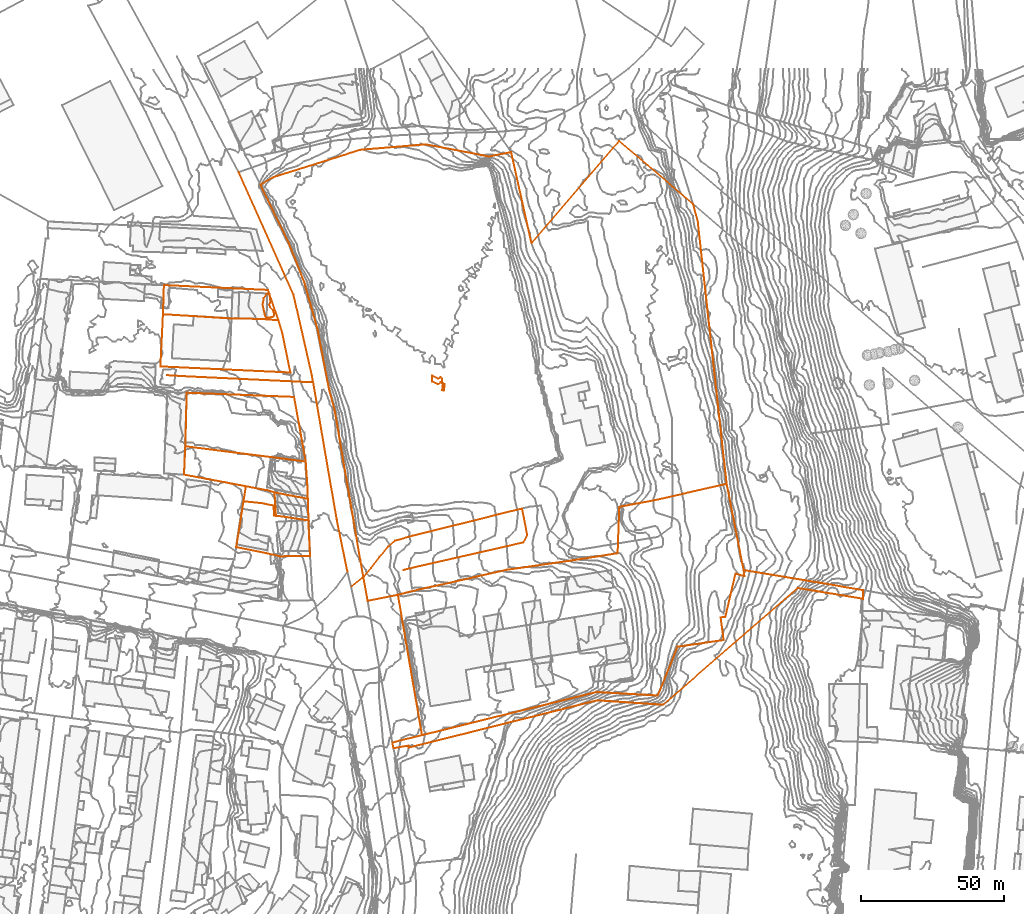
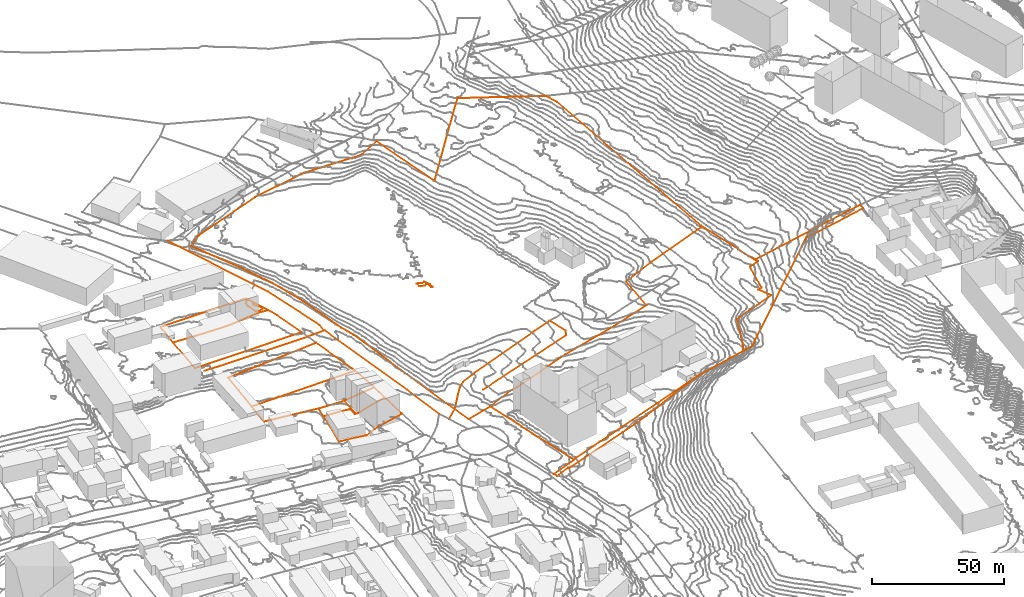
# Not in any storey, part 335 of 419: 17 proxies.
"""IFC2X3 model written with IfcOpenShell, lengths in metres."""

import ifcopenshell
import ifcopenshell.guid

model = None  # the IFC model being written
_history = None  # IfcOwnerHistory: only IFC2X3 demands one
_inside = {}  # id of a spatial element -> (the spatial element, [elements in it])
_under = {}  # id of a project, library or spatial element -> (it, [spatial elements below it])
_declared = {}  # id of a project -> (the project, [libraries it declares])
_typed = {}  # id of a type object -> (the type object, [elements of that type])
_made_of = {}  # id of a material, layer set ... -> (it, [elements and type objects made of it])


def new_model(schema):
    """Start an empty IFC model of exactly this schema.

    Asked for "IFC4X3", IfcOpenShell would pick the latest addendum, in which some entities
    have other attributes; the version numbers below select the first issue.
    IFC2X3 requires an IfcOwnerHistory on every rooted entity: one is made here for all.
    """
    global model, _history
    if schema == "IFC4X3":
        model = ifcopenshell.file(schema_version=(4, 3, 0, 0))
    else:
        model = ifcopenshell.file(schema=schema)
    _inside.clear()
    _under.clear()
    _declared.clear()
    _typed.clear()
    _made_of.clear()
    _history = None
    if model.schema == "IFC2X3":
        org = make("IfcOrganization", Name="unknown")
        user = make(
            "IfcPersonAndOrganization",
            ThePerson=make("IfcPerson", FamilyName="unknown"),
            TheOrganization=org,
        )
        app = make(
            "IfcApplication",
            ApplicationDeveloper=org,
            Version="unknown",
            ApplicationFullName="unknown",
            ApplicationIdentifier="unknown",
        )
        _history = make(
            "IfcOwnerHistory",
            OwningUser=user,
            OwningApplication=app,
            ChangeAction="ADDED",
            CreationDate=0,
        )
    return model


def make(cls, **values):
    """One entity of the class cls with the attributes given. An attribute that is None is left unset."""
    return model.create_entity(
        cls, **{name: value for name, value in values.items() if value is not None}
    )


def entity(cls, *values):
    """Any entity or typed value of the class cls, its attributes in the order of the schema. None: left unset."""
    e = model.create_entity(cls)
    for i, value in enumerate(values):
        if value is not None:
            e[i] = value
    return e


def rooted(cls, **values):
    """An entity with a GlobalId (a new one), such as an element, a storey or a relation."""
    return make(cls, GlobalId=ifcopenshell.guid.new(), OwnerHistory=_history, **values)


def si_unit(unit_type, name, prefix=None):
    """IfcSIUnit, for example si_unit("LENGTHUNIT", "METRE", prefix="MILLI")."""
    return make("IfcSIUnit", UnitType=unit_type, Prefix=prefix, Name=name)


def assignment(units):
    """IfcUnitAssignment: the units of a project."""
    return None if units is None else make("IfcUnitAssignment", Units=units)


def point(xyz):
    """IfcCartesianPoint."""
    return None if xyz is None else make("IfcCartesianPoint", Coordinates=xyz)


def direction(xyz):
    """IfcDirection."""
    return None if xyz is None else make("IfcDirection", DirectionRatios=xyz)


def frame(location, z_axis=None, x_axis=None):
    """IfcAxis2Placement3D, a coordinate frame: its origin and axes. An axis left out is left unset."""
    return make(
        "IfcAxis2Placement3D",
        Location=point(location),
        Axis=direction(z_axis),
        RefDirection=direction(x_axis),
    )


def origin_with_axes():
    """The frame at (0, 0, 0) with the z axis (0, 0, 1) and the x axis (1, 0, 0) written out."""
    return frame((0.0, 0.0, 0.0), z_axis=(0.0, 0.0, 1.0), x_axis=(1.0, 0.0, 0.0))


def place(relative_to, where):
    """IfcLocalPlacement: puts the frame where relative to a parent placement (None: the world)."""
    return make(
        "IfcLocalPlacement", PlacementRelTo=relative_to, RelativePlacement=where
    )


def context(
    kind, dimensions, precision=None, world=None, true_north=None, identifier=None
):
    """IfcGeometricRepresentationContext, for example the 3D "Model" context."""
    return make(
        "IfcGeometricRepresentationContext",
        ContextIdentifier=identifier,
        ContextType=kind,
        CoordinateSpaceDimension=dimensions,
        Precision=precision,
        WorldCoordinateSystem=world,
        TrueNorth=true_north,
    )


def subcontext(parent, identifier, kind, view, scale=None):
    """IfcGeometricRepresentationSubContext, for example "Body" below "Model"."""
    return make(
        "IfcGeometricRepresentationSubContext",
        ContextIdentifier=identifier,
        ContextType=kind,
        ParentContext=parent,
        TargetScale=scale,
        TargetView=view,
    )


def project(units=None, contexts=None):
    """IfcProject with its units and contexts."""
    return rooted(
        "IfcProject",
        Name="project",
        RepresentationContexts=contexts,
        UnitsInContext=assignment(units),
    )


def shape(context_of_items, identifier, shape_type, items):
    """IfcShapeRepresentation: the items that make up one representation, for example the "Body"."""
    return make(
        "IfcShapeRepresentation",
        ContextOfItems=context_of_items,
        RepresentationIdentifier=identifier,
        RepresentationType=shape_type,
        Items=items,
    )


def made_of(thing, what):
    """Note that an element or type object is made of a material, layer set ...; save() writes the relation."""
    if what is not None:
        _made_of.setdefault(what.id(), (what, []))[1].append(thing)
    return thing


def element(
    cls,
    number,
    at=None,
    inside=None,
    cuts=None,
    type_object=None,
    material=None,
    context=None,
    identifier="Body",
    shape_type=None,
    held_by="IfcProductDefinitionShape",
    body=None,
    shapes=None,
    **own,
):
    """One element of the class cls, such as IfcWall. Its Tag is "e" and its number.

    at: its placement. inside: the storey or other place that contains it. cuts: it is an
    opening in that element (IfcRelVoidsElement). A single representation is given by context,
    identifier, shape_type and body (its items); several are given by shapes. held_by: the class
    of the entity that holds the representations. save() writes the other relations.
    """
    e = rooted(cls, Tag="e%d" % number, ObjectPlacement=at, **own)
    if body is not None:
        shapes = [shape(context, identifier, shape_type, body)]
    if shapes is not None:
        e.Representation = make(held_by, Representations=shapes)
    if inside is not None:
        _inside.setdefault(inside.id(), (inside, []))[1].append(e)
    if cuts is not None:
        rooted(
            "IfcRelVoidsElement", RelatingBuildingElement=cuts, RelatedOpeningElement=e
        )
    if type_object is not None:
        _typed.setdefault(type_object.id(), (type_object, []))[1].append(e)
    return made_of(e, material)


def aggregate(whole, parts):
    """IfcRelAggregates: a whole, such as a stair, and the parts it consists of."""
    return rooted("IfcRelAggregates", RelatingObject=whole, RelatedObjects=parts)


def save(model, path):
    """Write the relations noted so far, then the file.

    IfcRelAggregates (storeys below a building ...), IfcRelContainedInSpatialStructure (elements
    in a storey), IfcRelDefinesByType, IfcRelAssociatesMaterial and IfcRelDeclares: one each for
    every whole, place, type object, material and project.
    """
    for whole, parts in _under.values():
        aggregate(whole, parts)
    for where, things in _inside.values():
        rooted(
            "IfcRelContainedInSpatialStructure",
            RelatedElements=things,
            RelatingStructure=where,
        )
    for kind, things in _typed.values():
        rooted("IfcRelDefinesByType", RelatedObjects=things, RelatingType=kind)
    for what, things in _made_of.values():
        rooted("IfcRelAssociatesMaterial", RelatedObjects=things, RelatingMaterial=what)
    for by, libraries in _declared.values():
        rooted("IfcRelDeclares", RelatingContext=by, RelatedDefinitions=libraries)
    model.write(path)


model = new_model("IFC2X3")

# Units and contexts
model_context = context("Model", 3, precision=1e-05, world=origin_with_axes())
body_context = subcontext(model_context, "Body", "Model", "MODEL_VIEW")
ifc_project = project(units=[si_unit("AREAUNIT", "SQUARE_METRE"), si_unit("LENGTHUNIT", "METRE")], contexts=[model_context])

# Proxies
proxy_1_placement = place(None, frame((621.3920204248, 922.5976909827, 51.2), z_axis=(0.0, 0.0, 1.0), x_axis=(1.0, 0.0, 0.0)))
element("IfcBuildingElementProxy", 1, at=proxy_1_placement, Name="Route 98", ObjectType="NOTDEFINED", context=body_context, shape_type="GeometricCurveSet", body=[
    entity("IfcGeometricCurveSet", [entity("IfcPolyline", [entity("IfcCartesianPoint", [0.0, 0.0, 0.0]), entity("IfcCartesianPoint", [8.2999999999, -48.2999999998, -1.2]), entity("IfcCartesianPoint", [12.0, -66.2999999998, -2.8])])]),
])
proxy_2_placement = place(None, frame((652.9920204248, 856.8976909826, 52.4), z_axis=(0.0, 0.0, 1.0), x_axis=(1.0, 0.0, 0.0)))
element("IfcBuildingElementProxy", 2, at=proxy_2_placement, Name="Route 197", ObjectType="NOTDEFINED", context=body_context, shape_type="GeometricCurveSet", body=[
    entity("IfcGeometricCurveSet", [entity("IfcPolyline", [entity("IfcCartesianPoint", [41.6, 21.5, 4.4]), entity("IfcCartesianPoint", [43.4, 12.2000000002, 4.9]), entity("IfcCartesianPoint", [42.0, 9.5999999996, 4.8]), entity("IfcCartesianPoint", [0.0, 0.0, 0.0])])]),
])
proxy_3_placement = place(None, frame((634.6920204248, 850.9976909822, 48.8), z_axis=(0.0, 0.0, 1.0), x_axis=(1.0, 0.0, 0.0)))
element("IfcBuildingElementProxy", 3, at=proxy_3_placement, Name="Route 291", ObjectType="NOTDEFINED", context=body_context, shape_type="GeometricCurveSet", body=[
    entity("IfcGeometricCurveSet", [entity("IfcPolyline", [entity("IfcCartesianPoint", [0.0, 0.0, 0.0]), entity("IfcCartesianPoint", [4.6, 3.8000000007, 0.6]), entity("IfcCartesianPoint", [6.9, 6.5, 1.1]), entity("IfcCartesianPoint", [10.0, 10.5, 1.5]), entity("IfcCartesianPoint", [12.9, 14.0, 1.8]), entity("IfcCartesianPoint", [15.4, 16.1000000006, 2.1]), entity("IfcCartesianPoint", [21.7000000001, 17.9000000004, 3.1]), entity("IfcCartesianPoint", [51.9, 25.4000000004, 7.1]), entity("IfcCartesianPoint", [59.9, 27.4000000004, 8.0])])]),
])
proxy_4_placement = place(None, frame((569.7920204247, 925.0976909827, 48.9), z_axis=(0.0, 0.0, 1.0), x_axis=(1.0, 0.0, 0.0)))
element("IfcBuildingElementProxy", 4, at=proxy_4_placement, Name="Route 292", ObjectType="NOTDEFINED", context=body_context, shape_type="GeometricCurveSet", body=[
    entity("IfcGeometricCurveSet", [entity("IfcPolyline", [entity("IfcCartesianPoint", [0.0, 0.0, 0.0]), entity("IfcCartesianPoint", [6.8, -0.4000000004, 0.1]), entity("IfcCartesianPoint", [44.3, -2.2000000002, 1.7]), entity("IfcCartesianPoint", [51.6000000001, -2.5, 2.3])])]),
])
proxy_5_placement = place(None, frame((595.2920204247, 996.1976909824, 57.1), z_axis=(0.0, 0.0, 1.0), x_axis=(1.0, 0.0, 0.0)))
element("IfcBuildingElementProxy", 5, at=proxy_5_placement, Name="Route 305", ObjectType="NOTDEFINED", context=body_context, shape_type="GeometricCurveSet", body=[
    entity("IfcGeometricCurveSet", [entity("IfcPolyline", [entity("IfcCartesianPoint", [26.1000000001, -73.5999999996, -5.9]), entity("IfcCartesianPoint", [25.6000000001, -70.8999999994, -4.9]), entity("IfcCartesianPoint", [19.2000000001, -42.7999999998, -4.3]), entity("IfcCartesianPoint", [0.0, 0.0, 0.0])])]),
])
proxy_6_placement = place(None, frame((602.9020204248, 991.8476909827, 54.6844293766), z_axis=(0.0, 0.0, 1.0), x_axis=(1.0, 0.0, 0.0)))
element("IfcBuildingElementProxy", 6, at=proxy_6_placement, Name="Cadastre 57", ObjectType="NOTDEFINED", context=body_context, shape_type="GeometricCurveSet", body=[
    entity("IfcGeometricCurveSet", [entity("IfcPolyline", [entity("IfcCartesianPoint", [151.61, -6.8499999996, 20.8134902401]), entity("IfcCartesianPoint", [153.2, -12.6399999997, 20.8725838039]), entity("IfcCartesianPoint", [163.3199999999, -104.6299999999, 15.7432181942]), entity("IfcCartesianPoint", [162.84, -104.9400000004, 15.3105404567]), entity("IfcCartesianPoint", [138.2, -110.54, 11.4767116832]), entity("IfcCartesianPoint", [125.74, -112.8899999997, 8.0886507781]), entity("IfcCartesianPoint", [125.1499999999, -129.1399999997, 7.1838067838]), entity("IfcCartesianPoint", [109.5399999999, -131.5999999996, 4.4705969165]), entity("IfcCartesianPoint", [86.4099999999, -134.9199999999, 1.4815148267]), entity("IfcCartesianPoint", [61.8999999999, -140.4699999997, -1.861779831]), entity("IfcCartesianPoint", [58.52, -141.1600000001, -1.9626136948]), entity("IfcCartesianPoint", [52.6499999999, -142.5499999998, -3.1380284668]), entity("IfcCartesianPoint", [48.1899999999, -143.6799999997, -4.0844292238]), entity("IfcCartesianPoint", [37.61, -145.8200000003, -4.9312379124]), entity("IfcCartesianPoint", [35.01, -131.5300000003, -4.6724931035]), entity("IfcCartesianPoint", [26.0, -78.8100000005, -2.587188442]), entity("IfcCartesianPoint", [24.1499999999, -72.0800000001, -2.4625246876]), entity("IfcCartesianPoint", [20.02, -50.5899999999, -1.8096525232]), entity("IfcCartesianPoint", [15.4199999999, -34.2999999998, -1.5019299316]), entity("IfcCartesianPoint", [9.9199999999, -20.2700000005, -1.0976125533]), entity("IfcCartesianPoint", [0.0, 0.0, 0.0]), entity("IfcCartesianPoint", [4.5699999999, 2.6399999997, 1.6650426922]), entity("IfcCartesianPoint", [35.0, 12.1799999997, 3.1365062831]), entity("IfcCartesianPoint", [57.8999999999, 14.0899999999, 5.3210762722]), entity("IfcCartesianPoint", [80.01, 9.8399999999, 8.2505036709]), entity("IfcCartesianPoint", [87.85, 11.3499999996, 11.0140529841]), entity("IfcCartesianPoint", [94.97, -20.4000000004, 9.4117311]), entity("IfcCartesianPoint", [123.47, 12.7599999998, 15.2393832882]), entity("IfcCartesianPoint", [125.6699999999, 15.2000000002, 15.4633213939]), entity("IfcCartesianPoint", [151.61, -6.8499999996, 20.8134902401])])]),
])
proxy_7_placement = place(None, frame((567.8720204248, 928.1376909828, 49.0698641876), z_axis=(0.0, 0.0, 1.0), x_axis=(1.0, 0.0, 0.0)))
element("IfcBuildingElementProxy", 7, at=proxy_7_placement, Name="Cadastre 63", ObjectType="NOTDEFINED", context=body_context, shape_type="GeometricCurveSet", body=[
    entity("IfcGeometricCurveSet", [entity("IfcPolyline", [entity("IfcCartesianPoint", [0.91, 18.2800000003, 0.4981066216]), entity("IfcCartesianPoint", [10.62, 17.7000000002, 0.5580570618]), entity("IfcCartesianPoint", [23.87, 16.8399999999, 1.0119367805]), entity("IfcCartesianPoint", [26.3199999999, 16.8700000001, 1.1867762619]), entity("IfcCartesianPoint", [36.17, 16.5700000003, 2.6115161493]), entity("IfcCartesianPoint", [41.42, 16.1499999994, 2.6038662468]), entity("IfcCartesianPoint", [42.6799999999, 11.7999999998, 2.4557364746]), entity("IfcCartesianPoint", [45.5599999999, -2.1299999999, 1.9491390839]), entity("IfcCartesianPoint", [0.0, 0.0, 0.0]), entity("IfcCartesianPoint", [0.91, 18.2800000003, 0.4981066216])])]),
])
proxy_8_placement = place(None, frame((568.7820204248, 946.417690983, 49.5679708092), z_axis=(0.0, 0.0, 1.0), x_axis=(1.0, 0.0, 0.0)))
element("IfcBuildingElementProxy", 8, at=proxy_8_placement, Name="Cadastre 64", ObjectType="NOTDEFINED", context=body_context, shape_type="GeometricCurveSet", body=[
    entity("IfcGeometricCurveSet", [entity("IfcPolyline", [entity("IfcCartesianPoint", [0.33, 10.21, 0.9060562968]), entity("IfcCartesianPoint", [36.8099999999, 8.5199999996, 2.3680296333]), entity("IfcCartesianPoint", [40.51, -2.1300000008, 2.1057596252]), entity("IfcCartesianPoint", [35.26, -1.71, 2.1134095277]), entity("IfcCartesianPoint", [25.4099999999, -1.4100000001, 0.6886696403]), entity("IfcCartesianPoint", [22.96, -1.4400000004, 0.513830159]), entity("IfcCartesianPoint", [9.71, -0.5800000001, 0.0599504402]), entity("IfcCartesianPoint", [0.0, 0.0, 0.0]), entity("IfcCartesianPoint", [0.21, 6.2999999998, 0.5703499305]), entity("IfcCartesianPoint", [0.26, 8.25, 0.738004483]), entity("IfcCartesianPoint", [0.33, 10.21, 0.9060562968])])]),
])
proxy_9_placement = place(None, frame((576.6120204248, 900.1576909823, 45.1682894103), z_axis=(0.0, 0.0, 1.0), x_axis=(1.0, 0.0, 0.0)))
element("IfcBuildingElementProxy", 9, at=proxy_9_placement, Name="Cadastre 67", ObjectType="NOTDEFINED", context=body_context, shape_type="GeometricCurveSet", body=[
    entity("IfcGeometricCurveSet", [entity("IfcPolyline", [entity("IfcCartesianPoint", [38.13, 17.3000000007, 5.6806111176]), entity("IfcCartesianPoint", [42.1899999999, -5.3399999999, 5.0686489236]), entity("IfcCartesianPoint", [0.0, 0.0, 0.0]), entity("IfcCartesianPoint", [0.29, 10.6400000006, 1.0911108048]), entity("IfcCartesianPoint", [0.47, 18.7800000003, 1.804542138]), entity("IfcCartesianPoint", [38.13, 17.3000000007, 5.6806111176])])]),
])
proxy_10_placement = place(None, frame((576.1420204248, 890.2176909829, 44.3330411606), z_axis=(0.0, 0.0, 1.0), x_axis=(1.0, 0.0, 0.0)))
element("IfcBuildingElementProxy", 10, at=proxy_10_placement, Name="Cadastre 68", ObjectType="NOTDEFINED", context=body_context, shape_type="GeometricCurveSet", body=[
    entity("IfcGeometricCurveSet", [entity("IfcPolyline", [entity("IfcCartesianPoint", [0.47, 9.9399999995, 0.8352482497]), entity("IfcCartesianPoint", [42.6599999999, 4.5999999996, 5.9038971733]), entity("IfcCartesianPoint", [43.1599999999, -2.6500000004, 5.8859157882]), entity("IfcCartesianPoint", [43.38, -8.4800000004, 5.8552101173]), entity("IfcCartesianPoint", [32.64, -6.4199999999, 2.6787001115]), entity("IfcCartesianPoint", [31.71, -6.1699999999, 2.3697693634]), entity("IfcCartesianPoint", [29.0599999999, -5.4500000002, 1.7330610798]), entity("IfcCartesianPoint", [21.6799999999, -4.0700000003, 1.0052843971]), entity("IfcCartesianPoint", [0.0, 0.0, 0.0]), entity("IfcCartesianPoint", [0.47, 9.9399999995, 0.8352482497])])]),
])
proxy_11_placement = place(None, frame((596.9820204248, 880.8876909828, 45.1654874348), z_axis=(0.0, 0.0, 1.0), x_axis=(1.0, 0.0, 0.0)))
element("IfcBuildingElementProxy", 11, at=proxy_11_placement, Name="Cadastre 69", ObjectType="NOTDEFINED", context=body_context, shape_type="GeometricCurveSet", body=[
    entity("IfcGeometricCurveSet", [entity("IfcPolyline", [entity("IfcCartesianPoint", [0.84, 5.2599999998, 0.1728381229]), entity("IfcCartesianPoint", [8.22, 3.8799999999, 0.9006148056]), entity("IfcCartesianPoint", [10.87, 3.1600000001, 1.5373230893]), entity("IfcCartesianPoint", [11.39, -5.1299999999, 0.3435131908]), entity("IfcCartesianPoint", [10.76, -5.0099999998, 0.3120136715]), entity("IfcCartesianPoint", [10.53, -1.4800000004, 0.4655680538]), entity("IfcCartesianPoint", [6.11, -0.6200000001, 0.2904127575]), entity("IfcCartesianPoint", [0.0, 0.0, 0.0]), entity("IfcCartesianPoint", [0.84, 5.2599999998, 0.1728381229])])]),
])
proxy_12_placement = place(None, frame((594.4420204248, 864.8176909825, 44.1058893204), z_axis=(0.0, 0.0, 1.0), x_axis=(1.0, 0.0, 0.0)))
element("IfcBuildingElementProxy", 12, at=proxy_12_placement, Name="Cadastre 70", ObjectType="NOTDEFINED", context=body_context, shape_type="GeometricCurveSet", body=[
    entity("IfcGeometricCurveSet", [entity("IfcPolyline", [entity("IfcCartesianPoint", [2.54, 16.0700000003, 1.0595981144]), entity("IfcCartesianPoint", [8.65, 15.4500000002, 1.3500108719]), entity("IfcCartesianPoint", [13.0700000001, 14.5899999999, 1.5251661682]), entity("IfcCartesianPoint", [13.3, 11.0600000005, 1.3716117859]), entity("IfcCartesianPoint", [13.9300000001, 10.9400000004, 1.4031113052]), entity("IfcCartesianPoint", [14.62, 10.9500000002, 1.4235113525]), entity("IfcCartesianPoint", [25.3500000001, 9.3600000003, 5.934590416]), entity("IfcCartesianPoint", [25.3300000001, 8.5099999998, 5.9202452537]), entity("IfcCartesianPoint", [25.8300000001, -2.4500000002, 5.6758987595]), entity("IfcCartesianPoint", [25.88, -3.0499999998, 5.6717143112]), entity("IfcCartesianPoint", [15.3300000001, -3.2000000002, 3.4562950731]), entity("IfcCartesianPoint", [10.9, -2.1699999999, 0.4216113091]), entity("IfcCartesianPoint", [0.0, 0.0, 0.0]), entity("IfcCartesianPoint", [1.9700000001, 12.4800000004, 1.1126706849]), entity("IfcCartesianPoint", [2.54, 16.0700000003, 1.0595981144])])]),
])
proxy_13_placement = place(None, frame((607.8520204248, 884.0476909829, 46.7028105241), z_axis=(0.0, 0.0, 1.0), x_axis=(1.0, 0.0, 0.0)))
element("IfcBuildingElementProxy", 13, at=proxy_13_placement, Name="Cadastre 71", ObjectType="NOTDEFINED", context=body_context, shape_type="GeometricCurveSet", body=[
    entity("IfcGeometricCurveSet", [entity("IfcPolyline", [entity("IfcCartesianPoint", [0.0, 0.0, 0.0]), entity("IfcCartesianPoint", [0.9300000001, -0.25, 0.308930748]), entity("IfcCartesianPoint", [11.67, -2.3100000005, 3.4854407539]), entity("IfcCartesianPoint", [11.78, -6.0899999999, 3.4372689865]), entity("IfcCartesianPoint", [11.9400000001, -9.8700000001, 3.3376692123]), entity("IfcCartesianPoint", [1.21, -8.2800000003, -1.1734098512]), entity("IfcCartesianPoint", [0.52, -8.29, -1.1938098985]), entity("IfcCartesianPoint", [0.0, 0.0, 0.0])])]),
])
proxy_14_placement = place(None, frame((649.1420204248, 796.4276909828, 51.3473460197), z_axis=(0.0, 0.0, 1.0), x_axis=(1.0, 0.0, 0.0)))
element("IfcBuildingElementProxy", 14, at=proxy_14_placement, Name="Cadastre 82", ObjectType="NOTDEFINED", context=body_context, shape_type="GeometricCurveSet", body=[
    entity("IfcGeometricCurveSet", [entity("IfcPolyline", [entity("IfcCartesianPoint", [164.85, 50.3099999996, 35.0386142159]), entity("IfcCartesianPoint", [141.9299999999, 54.0899999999, 27.055887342]), entity("IfcCartesianPoint", [94.77, 13.2000000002, 18.3112120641]), entity("IfcCartesianPoint", [71.72, 14.7400000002, 11.3805752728]), entity("IfcCartesianPoint", [40.73, 6.96, 5.5500154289]), entity("IfcCartesianPoint", [5.6699999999, -1.8300000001, 1.8568931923]), entity("IfcCartesianPoint", [5.59, -1.1000000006, 1.730135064]), entity("IfcCartesianPoint", [0.37, -2.0200000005, 0.1959618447]), entity("IfcCartesianPoint", [0.0, 0.0, 0.0]), entity("IfcCartesianPoint", [10.38, 2.5499999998, 1.4118240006]), entity("IfcCartesianPoint", [11.0599999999, 2.7299999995, 1.686554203]), entity("IfcCartesianPoint", [71.47, 17.6499999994, 8.5475188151]), entity("IfcCartesianPoint", [92.98, 16.4299999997, 14.7963133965]), entity("IfcCartesianPoint", [99.9199999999, 33.5300000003, 16.642942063]), entity("IfcCartesianPoint", [116.0499999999, 35.8700000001, 20.56125185]), entity("IfcCartesianPoint", [115.02, 43.8099999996, 18.7579684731]), entity("IfcCartesianPoint", [116.62, 43.9399999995, 18.9341229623]), entity("IfcCartesianPoint", [120.1899999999, 59.1099999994, 18.285632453]), entity("IfcCartesianPoint", [123.35, 58.21, 20.246894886]), entity("IfcCartesianPoint", [123.0499999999, 60.3700000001, 19.6746541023]), entity("IfcCartesianPoint", [164.95, 53.3499999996, 34.6420542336]), entity("IfcCartesianPoint", [164.85, 50.3099999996, 35.0386142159])])]),
])
proxy_15_placement = place(None, frame((651.0920204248, 848.167690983, 50.6000001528), z_axis=(0.0, 0.0, 1.0), x_axis=(1.0, 0.0, 0.0)))
element("IfcBuildingElementProxy", 15, at=proxy_15_placement, Name="Cadastre 84", ObjectType="NOTDEFINED", context=body_context, shape_type="GeometricCurveSet", body=[
    entity("IfcGeometricCurveSet", [entity("IfcPolyline", [entity("IfcCartesianPoint", [115.13, 39.0499999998, 19.827647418]), entity("IfcCartesianPoint", [121.1, 8.6299999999, 20.4219999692]), entity("IfcCartesianPoint", [121.4, 6.4699999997, 20.9942407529]), entity("IfcCartesianPoint", [118.24, 7.3699999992, 19.03297832]), entity("IfcCartesianPoint", [114.67, -7.8000000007, 19.6814688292]), entity("IfcCartesianPoint", [113.0700000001, -7.9300000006, 19.50531434]), entity("IfcCartesianPoint", [114.1, -15.8700000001, 21.308597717]), entity("IfcCartesianPoint", [97.97, -18.21, 17.3902879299]), entity("IfcCartesianPoint", [91.03, -35.3100000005, 15.5436592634]), entity("IfcCartesianPoint", [69.52, -34.0900000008, 9.2948646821]), entity("IfcCartesianPoint", [9.11, -49.0100000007, 2.43390007]), entity("IfcCartesianPoint", [8.4300000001, -49.1900000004, 2.1591698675]), entity("IfcCartesianPoint", [0.0, 0.0, 0.0]), entity("IfcCartesianPoint", [4.46, 1.1299999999, 0.946400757]), entity("IfcCartesianPoint", [10.3300000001, 2.5199999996, 2.121815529]), entity("IfcCartesianPoint", [13.71, 3.21, 2.2226493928]), entity("IfcCartesianPoint", [38.22, 8.7599999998, 5.5659440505]), entity("IfcCartesianPoint", [61.35, 12.0800000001, 8.5550261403]), entity("IfcCartesianPoint", [76.96, 14.54, 11.2682360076]), entity("IfcCartesianPoint", [77.55, 30.79, 12.1730800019]), entity("IfcCartesianPoint", [90.01, 33.1399999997, 15.561140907]), entity("IfcCartesianPoint", [114.65, 38.7399999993, 19.3949696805]), entity("IfcCartesianPoint", [115.13, 39.0499999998, 19.827647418])])]),
])
proxy_16_placement = place(None, frame((603.6920127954, 949.8976909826, 52.0), z_axis=(0.0, 0.0, 1.0), x_axis=(1.0, 0.0, 0.0)))
element("IfcBuildingElementProxy", 16, at=proxy_16_placement, Name="Contour 52.0 m", ObjectType="NOTDEFINED", context=body_context, shape_type="GeometricCurveSet", body=[
    entity("IfcGeometricCurveSet", [entity("IfcPolyline", [entity("IfcCartesianPoint", [3.9882402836, -4.0, 0.0]), entity("IfcCartesianPoint", [3.4000076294, -4.4347768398, 0.0]), entity("IfcCartesianPoint", [1.4000076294, -4.7142779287, 0.0]), entity("IfcCartesianPoint", [0.8117749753, -4.0, 0.0]), entity("IfcCartesianPoint", [0.0, 0.0, 0.0]), entity("IfcCartesianPoint", [0.4000076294, 2.2222269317, 0.0]), entity("IfcCartesianPoint", [1.4000076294, 3.5625014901, 0.0]), entity("IfcCartesianPoint", [2.4000076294, 3.6667090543, 0.0]), entity("IfcCartesianPoint", [2.7333409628, 1.0, 0.0]), entity("IfcCartesianPoint", [2.3091111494, 0.0, 0.0]), entity("IfcCartesianPoint", [2.6727222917, -1.0, 0.0]), entity("IfcCartesianPoint", [3.5666672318, -2.0, 0.0]), entity("IfcCartesianPoint", [3.9714362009, -3.0, 0.0]), entity("IfcCartesianPoint", [3.9882402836, -4.0, 0.0])])]),
])
proxy_17_placement = place(None, frame((663.0920204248, 922.8976409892, 57.0), z_axis=(0.0, 0.0, 1.0), x_axis=(1.0, 0.0, 0.0)))
element("IfcBuildingElementProxy", 17, at=proxy_17_placement, Name="Contour 57.0 m", ObjectType="NOTDEFINED", context=body_context, shape_type="GeometricCurveSet", body=[
    entity("IfcGeometricCurveSet", [entity("IfcPolyline", [entity("IfcCartesianPoint", [4.166645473, -2.9999500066, 0.0]), entity("IfcCartesianPoint", [4.0, -3.2499261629, 0.0]), entity("IfcCartesianPoint", [3.4999499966, -2.9999500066, 0.0]), entity("IfcCartesianPoint", [3.7500238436, -0.9999500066, 0.0]), entity("IfcCartesianPoint", [3.0, -0.2499261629, 0.0]), entity("IfcCartesianPoint", [2.0, -1.0000500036, 0.0]), entity("IfcCartesianPoint", [0.0, 0.0, 0.0]), entity("IfcCartesianPoint", [0.0, 2.0001499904, 0.0]), entity("IfcCartesianPoint", [2.0, 1.0001499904, 0.0]), entity("IfcCartesianPoint", [3.0, 1.500099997, 0.0]), entity("IfcCartesianPoint", [3.5000500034, 1.0000499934, 0.0]), entity("IfcCartesianPoint", [3.5000500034, 4.99934e-05, 0.0]), entity("IfcCartesianPoint", [4.3332909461, -0.9999500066, 0.0]), entity("IfcCartesianPoint", [4.166645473, -2.9999500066, 0.0])])]),
])

save(model, "model.ifc")
